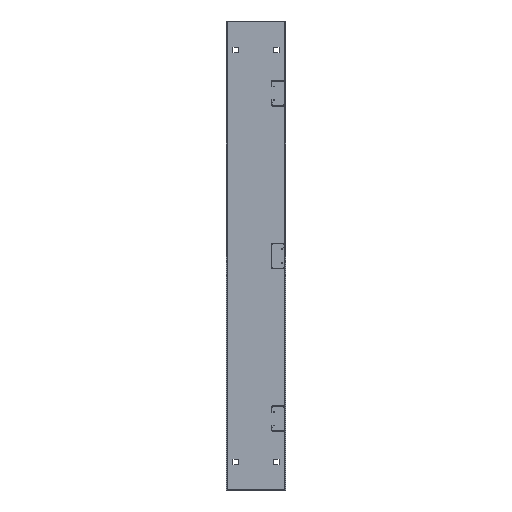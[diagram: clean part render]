
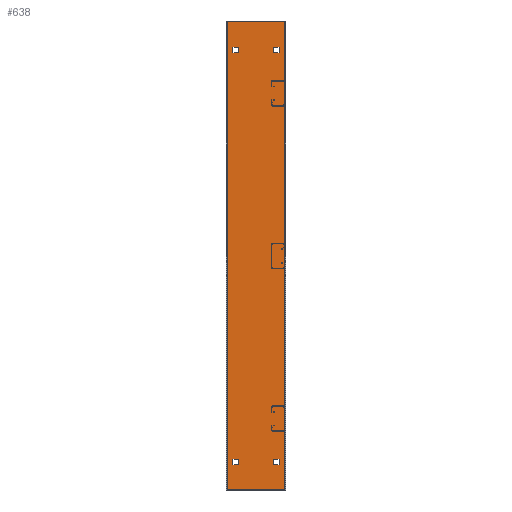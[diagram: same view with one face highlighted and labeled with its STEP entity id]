
A CAD part, left-side view. The second image highlights one B-rep face of the part: STEP entity #638.
In plain terms, the highlighted planar face has unit normal (-1, 0, 0).
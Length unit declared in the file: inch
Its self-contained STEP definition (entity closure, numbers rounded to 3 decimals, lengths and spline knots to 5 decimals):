
#29=DIRECTION('',(0.,1.,0.));
#30=VECTOR('',#29,4.03);
#31=CARTESIAN_POINT('',(-0.075,0.08,0.));
#32=LINE('',#31,#30);
#73=DIRECTION('',(0.,0.,-1.));
#74=VECTOR('',#73,32.7417);
#75=CARTESIAN_POINT('',(-0.075,4.11,0.));
#76=LINE('',#75,#74);
#85=DIRECTION('',(0.,0.,-1.));
#86=VECTOR('',#85,32.7417);
#87=CARTESIAN_POINT('',(-0.075,0.08,0.));
#88=LINE('',#87,#86);
#89=DIRECTION('',(0.,0.,-1.));
#90=VECTOR('',#89,0.41);
#91=CARTESIAN_POINT('',(-0.075,0.4725,-1.755));
#92=LINE('',#91,#90);
#93=DIRECTION('',(0.,-1.,0.));
#94=VECTOR('',#93,0.41);
#95=CARTESIAN_POINT('',(-0.075,0.8825,-1.755));
#96=LINE('',#95,#94);
#97=DIRECTION('',(0.,0.,1.));
#98=VECTOR('',#97,0.41);
#99=CARTESIAN_POINT('',(-0.075,0.8825,-2.165));
#100=LINE('',#99,#98);
#101=DIRECTION('',(0.,1.,0.));
#102=VECTOR('',#101,0.41);
#103=CARTESIAN_POINT('',(-0.075,0.4725,-2.165));
#104=LINE('',#103,#102);
#105=DIRECTION('',(0.,-1.,0.));
#106=VECTOR('',#105,0.41);
#107=CARTESIAN_POINT('',(-0.075,3.7175,-1.755));
#108=LINE('',#107,#106);
#109=DIRECTION('',(0.,0.,1.));
#110=VECTOR('',#109,0.41);
#111=CARTESIAN_POINT('',(-0.075,3.7175,-2.165));
#112=LINE('',#111,#110);
#113=DIRECTION('',(0.,1.,0.));
#114=VECTOR('',#113,0.41);
#115=CARTESIAN_POINT('',(-0.075,3.3075,-2.165));
#116=LINE('',#115,#114);
#117=DIRECTION('',(0.,0.,-1.));
#118=VECTOR('',#117,0.41);
#119=CARTESIAN_POINT('',(-0.075,3.3075,-1.755));
#120=LINE('',#119,#118);
#121=DIRECTION('',(0.,0.,1.));
#122=VECTOR('',#121,0.41);
#123=CARTESIAN_POINT('',(-0.075,0.4725,-31.03));
#124=LINE('',#123,#122);
#125=DIRECTION('',(0.,1.,0.));
#126=VECTOR('',#125,0.41);
#127=CARTESIAN_POINT('',(-0.075,0.4725,-30.62));
#128=LINE('',#127,#126);
#129=DIRECTION('',(0.,0.,-1.));
#130=VECTOR('',#129,0.41);
#131=CARTESIAN_POINT('',(-0.075,0.8825,-30.62));
#132=LINE('',#131,#130);
#133=DIRECTION('',(0.,-1.,0.));
#134=VECTOR('',#133,0.41);
#135=CARTESIAN_POINT('',(-0.075,0.8825,-31.03));
#136=LINE('',#135,#134);
#137=DIRECTION('',(0.,-1.,0.));
#138=VECTOR('',#137,0.41);
#139=CARTESIAN_POINT('',(-0.075,3.7175,-31.03));
#140=LINE('',#139,#138);
#141=DIRECTION('',(0.,0.,1.));
#142=VECTOR('',#141,0.41);
#143=CARTESIAN_POINT('',(-0.075,3.3075,-31.03));
#144=LINE('',#143,#142);
#145=DIRECTION('',(0.,1.,0.));
#146=VECTOR('',#145,0.41);
#147=CARTESIAN_POINT('',(-0.075,3.3075,-30.62));
#148=LINE('',#147,#146);
#149=DIRECTION('',(0.,0.,-1.));
#150=VECTOR('',#149,0.41);
#151=CARTESIAN_POINT('',(-0.075,3.7175,-30.62));
#152=LINE('',#151,#150);
#161=DIRECTION('',(0.,1.,0.));
#162=VECTOR('',#161,4.03);
#163=CARTESIAN_POINT('',(-0.075,0.08,-32.7417));
#164=LINE('',#163,#162);
#365=CARTESIAN_POINT('',(-0.075,0.08,0.));
#366=VERTEX_POINT('',#365);
#367=CARTESIAN_POINT('',(-0.075,4.11,0.));
#368=VERTEX_POINT('',#367);
#373=CARTESIAN_POINT('',(-0.075,0.08,-32.7417));
#374=CARTESIAN_POINT('',(-0.075,4.11,-32.7417));
#375=VERTEX_POINT('',#373);
#376=VERTEX_POINT('',#374);
#417=CARTESIAN_POINT('',(-0.075,0.4725,-1.755));
#418=CARTESIAN_POINT('',(-0.075,0.4725,-2.165));
#419=VERTEX_POINT('',#417);
#420=VERTEX_POINT('',#418);
#421=CARTESIAN_POINT('',(-0.075,0.8825,-2.165));
#422=VERTEX_POINT('',#421);
#423=CARTESIAN_POINT('',(-0.075,0.8825,-1.755));
#424=VERTEX_POINT('',#423);
#425=CARTESIAN_POINT('',(-0.075,3.7175,-1.755));
#426=CARTESIAN_POINT('',(-0.075,3.3075,-1.755));
#427=VERTEX_POINT('',#425);
#428=VERTEX_POINT('',#426);
#429=CARTESIAN_POINT('',(-0.075,3.3075,-2.165));
#430=VERTEX_POINT('',#429);
#431=CARTESIAN_POINT('',(-0.075,3.7175,-2.165));
#432=VERTEX_POINT('',#431);
#434=CARTESIAN_POINT('',(-0.075,0.4725,-31.03));
#436=VERTEX_POINT('',#434);
#438=CARTESIAN_POINT('',(-0.075,0.4725,-30.62));
#440=VERTEX_POINT('',#438);
#442=CARTESIAN_POINT('',(-0.075,0.8825,-30.62));
#444=VERTEX_POINT('',#442);
#446=CARTESIAN_POINT('',(-0.075,0.8825,-31.03));
#448=VERTEX_POINT('',#446);
#450=CARTESIAN_POINT('',(-0.075,3.7175,-31.03));
#452=VERTEX_POINT('',#450);
#454=CARTESIAN_POINT('',(-0.075,3.3075,-31.03));
#456=VERTEX_POINT('',#454);
#458=CARTESIAN_POINT('',(-0.075,3.3075,-30.62));
#460=VERTEX_POINT('',#458);
#462=CARTESIAN_POINT('',(-0.075,3.7175,-30.62));
#464=VERTEX_POINT('',#462);
#585=CARTESIAN_POINT('',(-0.075,0.08,0.));
#586=DIRECTION('',(-1.,0.,0.));
#587=DIRECTION('',(0.,1.,0.));
#588=AXIS2_PLACEMENT_3D('',#585,#586,#587);
#589=PLANE('',#588);
#590=ORIENTED_EDGE('',*,*,#488,.F.);
#592=ORIENTED_EDGE('',*,*,#591,.T.);
#594=ORIENTED_EDGE('',*,*,#593,.T.);
#595=ORIENTED_EDGE('',*,*,#577,.F.);
#596=EDGE_LOOP('',(#590,#592,#594,#595));
#597=FACE_OUTER_BOUND('',#596,.F.);
#599=ORIENTED_EDGE('',*,*,#598,.F.);
#601=ORIENTED_EDGE('',*,*,#600,.F.);
#603=ORIENTED_EDGE('',*,*,#602,.F.);
#605=ORIENTED_EDGE('',*,*,#604,.F.);
#606=EDGE_LOOP('',(#599,#601,#603,#605));
#607=FACE_BOUND('',#606,.F.);
#609=ORIENTED_EDGE('',*,*,#608,.F.);
#611=ORIENTED_EDGE('',*,*,#610,.F.);
#613=ORIENTED_EDGE('',*,*,#612,.F.);
#615=ORIENTED_EDGE('',*,*,#614,.F.);
#616=EDGE_LOOP('',(#609,#611,#613,#615));
#617=FACE_BOUND('',#616,.F.);
#619=ORIENTED_EDGE('',*,*,#618,.T.);
#621=ORIENTED_EDGE('',*,*,#620,.T.);
#623=ORIENTED_EDGE('',*,*,#622,.T.);
#625=ORIENTED_EDGE('',*,*,#624,.T.);
#626=EDGE_LOOP('',(#619,#621,#623,#625));
#627=FACE_BOUND('',#626,.F.);
#629=ORIENTED_EDGE('',*,*,#628,.T.);
#631=ORIENTED_EDGE('',*,*,#630,.T.);
#633=ORIENTED_EDGE('',*,*,#632,.T.);
#635=ORIENTED_EDGE('',*,*,#634,.T.);
#636=EDGE_LOOP('',(#629,#631,#633,#635));
#637=FACE_BOUND('',#636,.F.);
#638=ADVANCED_FACE('',(#597,#607,#617,#627,#637),#589,.T.);
#488=EDGE_CURVE('',#366,#368,#32,.T.);
#577=EDGE_CURVE('',#368,#376,#76,.T.);
#591=EDGE_CURVE('',#366,#375,#88,.T.);
#593=EDGE_CURVE('',#375,#376,#164,.T.);
#598=EDGE_CURVE('',#419,#420,#92,.T.);
#600=EDGE_CURVE('',#424,#419,#96,.T.);
#602=EDGE_CURVE('',#422,#424,#100,.T.);
#604=EDGE_CURVE('',#420,#422,#104,.T.);
#608=EDGE_CURVE('',#427,#428,#108,.T.);
#610=EDGE_CURVE('',#432,#427,#112,.T.);
#612=EDGE_CURVE('',#430,#432,#116,.T.);
#614=EDGE_CURVE('',#428,#430,#120,.T.);
#618=EDGE_CURVE('',#436,#440,#124,.T.);
#620=EDGE_CURVE('',#440,#444,#128,.T.);
#622=EDGE_CURVE('',#444,#448,#132,.T.);
#624=EDGE_CURVE('',#448,#436,#136,.T.);
#628=EDGE_CURVE('',#452,#456,#140,.T.);
#630=EDGE_CURVE('',#456,#460,#144,.T.);
#632=EDGE_CURVE('',#460,#464,#148,.T.);
#634=EDGE_CURVE('',#464,#452,#152,.T.);
